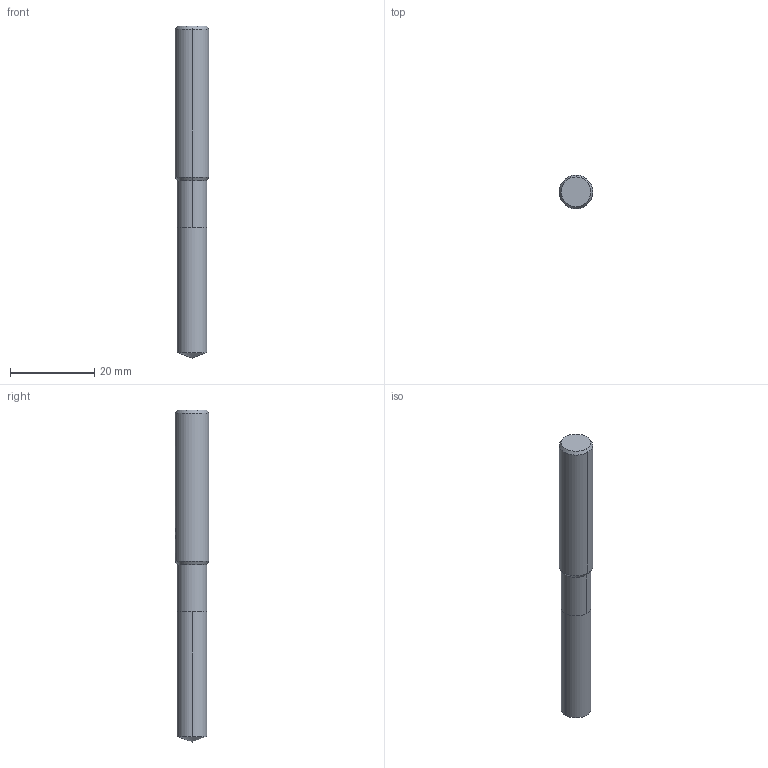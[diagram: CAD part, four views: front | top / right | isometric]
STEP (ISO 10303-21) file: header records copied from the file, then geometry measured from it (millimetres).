
FILE_DESCRIPTION(('no description'),'unknown implementation level');
FILE_NAME('solid6WmxN3V0uxZvxVjuCqoFI84yu5E_1.STP',' ',('CIMSOURCE GmbH'),('CADClick - KiM GmbH - www.kimweb.de'),'unknown preprocess','ACIS','unknown authorization');
FILE_SCHEMA(('automotive_design'));
Length unit declared in the file: millimetre
Products named in the file (2): NOCUT; CUT
Bounding box: 8 x 8 x 79 mm (x, y, z)
Volume: 3477.1 mm3; surface area: 2002.8 mm2
Topology: 2 solids, 2 shells, 28 faces, 67 edges, 41 vertices
Faces by surface type: cylinder 14, plane 8, cone 6
Entity records: 1811 total; most frequent: CARTESIAN_POINT 368, DIRECTION 139, STYLED_ITEM 136, PRESENTATION_STYLE_ASSIGNMENT 136, COLOUR_RGB 136, ORIENTED_EDGE 130, EDGE_CURVE 65, CURVE_STYLE 65
